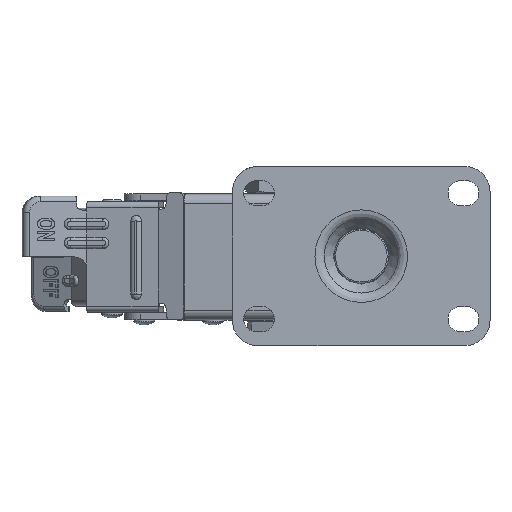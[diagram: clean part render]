
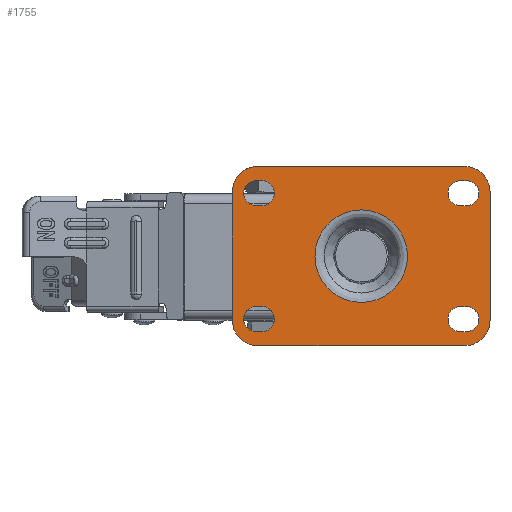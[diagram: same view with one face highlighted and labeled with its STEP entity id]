
A CAD part, top view. The second image highlights one B-rep face of the part: STEP entity #1755.
In plain terms, the highlighted planar face has unit normal (0, 0, 1).
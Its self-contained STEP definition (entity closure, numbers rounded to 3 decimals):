
#1755=ADVANCED_FACE('',(#7646,#7647,#7648,#7649,#7650,#7651),#2987,.F.);
#2987=PLANE('',#22046);
#4619=LINE('',#30284,#6121);
#4620=LINE('',#30289,#6122);
#4621=LINE('',#30292,#6123);
#4622=LINE('',#30297,#6124);
#4623=LINE('',#30300,#6125);
#4624=LINE('',#30305,#6126);
#4625=LINE('',#30308,#6127);
#4626=LINE('',#30313,#6128);
#4627=LINE('',#30316,#6129);
#4628=LINE('',#30319,#6130);
#4629=LINE('',#30323,#6131);
#4630=LINE('',#30327,#6132);
#4631=LINE('',#30329,#6133);
#4632=LINE('',#30333,#6134);
#6121=VECTOR('',#24148,1.);
#6122=VECTOR('',#24151,1.);
#6123=VECTOR('',#24154,1.);
#6124=VECTOR('',#24157,1.);
#6125=VECTOR('',#24160,1.);
#6126=VECTOR('',#24163,1.);
#6127=VECTOR('',#24166,1.);
#6128=VECTOR('',#24169,1.);
#6129=VECTOR('',#24172,1.);
#6130=VECTOR('',#24173,1.);
#6131=VECTOR('',#24176,1.);
#6132=VECTOR('',#24179,1.);
#6133=VECTOR('',#24180,1.);
#6134=VECTOR('',#24183,1.);
#7646=FACE_BOUND('',#8084,.T.);
#7647=FACE_BOUND('',#8085,.T.);
#7648=FACE_BOUND('',#8086,.T.);
#7649=FACE_BOUND('',#8087,.T.);
#7650=FACE_BOUND('',#8088,.T.);
#7651=FACE_BOUND('',#8089,.T.);
#8084=EDGE_LOOP('',(#9774));
#8085=EDGE_LOOP('',(#9775,#9776,#9777,#9778));
#8086=EDGE_LOOP('',(#9779,#9780,#9781,#9782));
#8087=EDGE_LOOP('',(#9783,#9784,#9785,#9786));
#8088=EDGE_LOOP('',(#9787,#9788,#9789,#9790));
#8089=EDGE_LOOP('',(#9791,#9792,#9793,#9794,#9795,#9796,#9797,#9798,#9799,
#9800));
#9774=ORIENTED_EDGE('',*,*,#18284,.T.);
#9775=ORIENTED_EDGE('',*,*,#18285,.F.);
#9776=ORIENTED_EDGE('',*,*,#18286,.F.);
#9777=ORIENTED_EDGE('',*,*,#18287,.F.);
#9778=ORIENTED_EDGE('',*,*,#18288,.F.);
#9779=ORIENTED_EDGE('',*,*,#18289,.F.);
#9780=ORIENTED_EDGE('',*,*,#18290,.F.);
#9781=ORIENTED_EDGE('',*,*,#18291,.F.);
#9782=ORIENTED_EDGE('',*,*,#18292,.F.);
#9783=ORIENTED_EDGE('',*,*,#18293,.F.);
#9784=ORIENTED_EDGE('',*,*,#18294,.F.);
#9785=ORIENTED_EDGE('',*,*,#18295,.F.);
#9786=ORIENTED_EDGE('',*,*,#18296,.F.);
#9787=ORIENTED_EDGE('',*,*,#18297,.F.);
#9788=ORIENTED_EDGE('',*,*,#18298,.F.);
#9789=ORIENTED_EDGE('',*,*,#18299,.F.);
#9790=ORIENTED_EDGE('',*,*,#18300,.F.);
#9791=ORIENTED_EDGE('',*,*,#18301,.T.);
#9792=ORIENTED_EDGE('',*,*,#18302,.T.);
#9793=ORIENTED_EDGE('',*,*,#18303,.T.);
#9794=ORIENTED_EDGE('',*,*,#18304,.T.);
#9795=ORIENTED_EDGE('',*,*,#18305,.T.);
#9796=ORIENTED_EDGE('',*,*,#18306,.T.);
#9797=ORIENTED_EDGE('',*,*,#18307,.T.);
#9798=ORIENTED_EDGE('',*,*,#18308,.T.);
#9799=ORIENTED_EDGE('',*,*,#18309,.T.);
#9800=ORIENTED_EDGE('',*,*,#18310,.T.);
#16128=VERTEX_POINT('',#30283);
#16129=VERTEX_POINT('',#30285);
#16130=VERTEX_POINT('',#30286);
#16131=VERTEX_POINT('',#30288);
#16132=VERTEX_POINT('',#30290);
#16133=VERTEX_POINT('',#30293);
#16134=VERTEX_POINT('',#30294);
#16135=VERTEX_POINT('',#30296);
#16136=VERTEX_POINT('',#30298);
#16137=VERTEX_POINT('',#30301);
#16138=VERTEX_POINT('',#30302);
#16139=VERTEX_POINT('',#30304);
#16140=VERTEX_POINT('',#30306);
#16141=VERTEX_POINT('',#30309);
#16142=VERTEX_POINT('',#30310);
#16143=VERTEX_POINT('',#30312);
#16144=VERTEX_POINT('',#30314);
#16145=VERTEX_POINT('',#30317);
#16146=VERTEX_POINT('',#30318);
#16147=VERTEX_POINT('',#30320);
#16148=VERTEX_POINT('',#30322);
#16149=VERTEX_POINT('',#30324);
#16150=VERTEX_POINT('',#30326);
#16151=VERTEX_POINT('',#30328);
#16152=VERTEX_POINT('',#30330);
#16153=VERTEX_POINT('',#30332);
#16154=VERTEX_POINT('',#30334);
#18284=EDGE_CURVE('',#16128,#16128,#21300,.T.);
#18285=EDGE_CURVE('',#16129,#16130,#4619,.T.);
#18286=EDGE_CURVE('',#16131,#16129,#21301,.T.);
#18287=EDGE_CURVE('',#16132,#16131,#4620,.T.);
#18288=EDGE_CURVE('',#16130,#16132,#21302,.T.);
#18289=EDGE_CURVE('',#16133,#16134,#4621,.T.);
#18290=EDGE_CURVE('',#16135,#16133,#21303,.T.);
#18291=EDGE_CURVE('',#16136,#16135,#4622,.T.);
#18292=EDGE_CURVE('',#16134,#16136,#21304,.T.);
#18293=EDGE_CURVE('',#16137,#16138,#4623,.T.);
#18294=EDGE_CURVE('',#16139,#16137,#21305,.T.);
#18295=EDGE_CURVE('',#16140,#16139,#4624,.T.);
#18296=EDGE_CURVE('',#16138,#16140,#21306,.T.);
#18297=EDGE_CURVE('',#16141,#16142,#4625,.T.);
#18298=EDGE_CURVE('',#16143,#16141,#21307,.T.);
#18299=EDGE_CURVE('',#16144,#16143,#4626,.T.);
#18300=EDGE_CURVE('',#16142,#16144,#21308,.T.);
#18301=EDGE_CURVE('',#16145,#16146,#4627,.T.);
#18302=EDGE_CURVE('',#16146,#16147,#4628,.T.);
#18303=EDGE_CURVE('',#16147,#16148,#21309,.T.);
#18304=EDGE_CURVE('',#16148,#16149,#4629,.T.);
#18305=EDGE_CURVE('',#16149,#16150,#21310,.T.);
#18306=EDGE_CURVE('',#16150,#16151,#4630,.T.);
#18307=EDGE_CURVE('',#16151,#16152,#4631,.T.);
#18308=EDGE_CURVE('',#16152,#16153,#21311,.T.);
#18309=EDGE_CURVE('',#16153,#16154,#4632,.T.);
#18310=EDGE_CURVE('',#16154,#16145,#21312,.T.);
#21300=CIRCLE('',#22033,16.522);
#21301=CIRCLE('',#22034,4.5);
#21302=CIRCLE('',#22035,4.5);
#21303=CIRCLE('',#22036,4.5);
#21304=CIRCLE('',#22037,4.5);
#21305=CIRCLE('',#22038,4.5);
#21306=CIRCLE('',#22039,4.5);
#21307=CIRCLE('',#22040,4.5);
#21308=CIRCLE('',#22041,4.5);
#21309=CIRCLE('',#22042,9.);
#21310=CIRCLE('',#22043,9.);
#21311=CIRCLE('',#22044,9.);
#21312=CIRCLE('',#22045,9.);
#22033=AXIS2_PLACEMENT_3D('',#30282,#24146,#24147);
#22034=AXIS2_PLACEMENT_3D('',#30287,#24149,#24150);
#22035=AXIS2_PLACEMENT_3D('',#30291,#24152,#24153);
#22036=AXIS2_PLACEMENT_3D('',#30295,#24155,#24156);
#22037=AXIS2_PLACEMENT_3D('',#30299,#24158,#24159);
#22038=AXIS2_PLACEMENT_3D('',#30303,#24161,#24162);
#22039=AXIS2_PLACEMENT_3D('',#30307,#24164,#24165);
#22040=AXIS2_PLACEMENT_3D('',#30311,#24167,#24168);
#22041=AXIS2_PLACEMENT_3D('',#30315,#24170,#24171);
#22042=AXIS2_PLACEMENT_3D('',#30321,#24174,#24175);
#22043=AXIS2_PLACEMENT_3D('',#30325,#24177,#24178);
#22044=AXIS2_PLACEMENT_3D('',#30331,#24181,#24182);
#22045=AXIS2_PLACEMENT_3D('',#30335,#24184,#24185);
#22046=AXIS2_PLACEMENT_3D('',#30336,#24186,#24187);
#24146=DIRECTION('',(0.,0.,-1.));
#24147=DIRECTION('',(-1.,0.,0.));
#24148=DIRECTION('',(1.,0.,0.));
#24149=DIRECTION('',(0.,0.,1.));
#24150=DIRECTION('',(1.,0.,0.));
#24151=DIRECTION('',(-1.,0.,0.));
#24152=DIRECTION('',(0.,0.,1.));
#24153=DIRECTION('',(1.,0.,0.));
#24154=DIRECTION('',(1.,0.,0.));
#24155=DIRECTION('',(0.,0.,1.));
#24156=DIRECTION('',(1.,0.,0.));
#24157=DIRECTION('',(-1.,0.,0.));
#24158=DIRECTION('',(0.,0.,1.));
#24159=DIRECTION('',(1.,0.,0.));
#24160=DIRECTION('',(1.,0.,0.));
#24161=DIRECTION('',(0.,0.,1.));
#24162=DIRECTION('',(1.,0.,0.));
#24163=DIRECTION('',(-1.,0.,0.));
#24164=DIRECTION('',(0.,0.,1.));
#24165=DIRECTION('',(1.,0.,0.));
#24166=DIRECTION('',(1.,0.,0.));
#24167=DIRECTION('',(0.,0.,1.));
#24168=DIRECTION('',(1.,0.,0.));
#24169=DIRECTION('',(-1.,0.,0.));
#24170=DIRECTION('',(0.,0.,1.));
#24171=DIRECTION('',(1.,0.,0.));
#24172=DIRECTION('',(-1.,0.,0.));
#24173=DIRECTION('',(-1.,0.,0.));
#24174=DIRECTION('',(0.,0.,1.));
#24175=DIRECTION('',(1.,0.,0.));
#24176=DIRECTION('',(0.,-1.,0.));
#24177=DIRECTION('',(0.,0.,1.));
#24178=DIRECTION('',(1.,0.,0.));
#24179=DIRECTION('',(1.,0.,0.));
#24180=DIRECTION('',(1.,0.,0.));
#24181=DIRECTION('',(0.,0.,1.));
#24182=DIRECTION('',(-1.,0.,0.));
#24183=DIRECTION('',(0.,1.,0.));
#24184=DIRECTION('',(0.,0.,1.));
#24185=DIRECTION('',(-1.,0.,0.));
#24186=DIRECTION('',(0.,0.,-1.));
#24187=DIRECTION('',(1.,0.,0.));
#30282=CARTESIAN_POINT('',(0.,0.,0.));
#30283=CARTESIAN_POINT('',(-16.522,0.,0.));
#30284=CARTESIAN_POINT('',(-37.5,18.,0.));
#30285=CARTESIAN_POINT('',(-37.5,18.,0.));
#30286=CARTESIAN_POINT('',(-35.5,18.,0.));
#30287=CARTESIAN_POINT('',(-37.5,22.5,0.));
#30288=CARTESIAN_POINT('',(-37.5,27.,0.));
#30289=CARTESIAN_POINT('',(-37.5,27.,0.));
#30290=CARTESIAN_POINT('',(-35.5,27.,0.));
#30291=CARTESIAN_POINT('',(-35.5,22.5,0.));
#30292=CARTESIAN_POINT('',(-37.5,-27.,0.));
#30293=CARTESIAN_POINT('',(-37.5,-27.,0.));
#30294=CARTESIAN_POINT('',(-35.5,-27.,0.));
#30295=CARTESIAN_POINT('',(-37.5,-22.5,0.));
#30296=CARTESIAN_POINT('',(-37.5,-18.,0.));
#30297=CARTESIAN_POINT('',(-37.5,-18.,0.));
#30298=CARTESIAN_POINT('',(-35.5,-18.,0.));
#30299=CARTESIAN_POINT('',(-35.5,-22.5,0.));
#30300=CARTESIAN_POINT('',(35.5,-27.,0.));
#30301=CARTESIAN_POINT('',(35.5,-27.,0.));
#30302=CARTESIAN_POINT('',(37.5,-27.,0.));
#30303=CARTESIAN_POINT('',(35.5,-22.5,0.));
#30304=CARTESIAN_POINT('',(35.5,-18.,0.));
#30305=CARTESIAN_POINT('',(35.5,-18.,0.));
#30306=CARTESIAN_POINT('',(37.5,-18.,0.));
#30307=CARTESIAN_POINT('',(37.5,-22.5,0.));
#30308=CARTESIAN_POINT('',(35.5,18.,0.));
#30309=CARTESIAN_POINT('',(35.5,18.,0.));
#30310=CARTESIAN_POINT('',(37.5,18.,0.));
#30311=CARTESIAN_POINT('',(35.5,22.5,0.));
#30312=CARTESIAN_POINT('',(35.5,27.,0.));
#30313=CARTESIAN_POINT('',(35.5,27.,0.));
#30314=CARTESIAN_POINT('',(37.5,27.,0.));
#30315=CARTESIAN_POINT('',(37.5,22.5,0.));
#30316=CARTESIAN_POINT('',(-37.,32.,0.));
#30317=CARTESIAN_POINT('',(37.,32.,0.));
#30318=CARTESIAN_POINT('',(0.,32.,0.));
#30319=CARTESIAN_POINT('',(-37.,32.,0.));
#30320=CARTESIAN_POINT('',(-37.,32.,0.));
#30321=CARTESIAN_POINT('',(-37.,23.,0.));
#30322=CARTESIAN_POINT('',(-46.,23.,0.));
#30323=CARTESIAN_POINT('',(-46.,23.,0.));
#30324=CARTESIAN_POINT('',(-46.,-23.,0.));
#30325=CARTESIAN_POINT('',(-37.,-23.,0.));
#30326=CARTESIAN_POINT('',(-37.,-32.,0.));
#30327=CARTESIAN_POINT('',(-37.,-32.,0.));
#30328=CARTESIAN_POINT('',(0.,-32.,0.));
#30329=CARTESIAN_POINT('',(-37.,-32.,0.));
#30330=CARTESIAN_POINT('',(37.,-32.,0.));
#30331=CARTESIAN_POINT('',(37.,-23.,0.));
#30332=CARTESIAN_POINT('',(46.,-23.,0.));
#30333=CARTESIAN_POINT('',(46.,23.,0.));
#30334=CARTESIAN_POINT('',(46.,23.,0.));
#30335=CARTESIAN_POINT('',(37.,23.,0.));
#30336=CARTESIAN_POINT('',(-32.,0.,0.));
